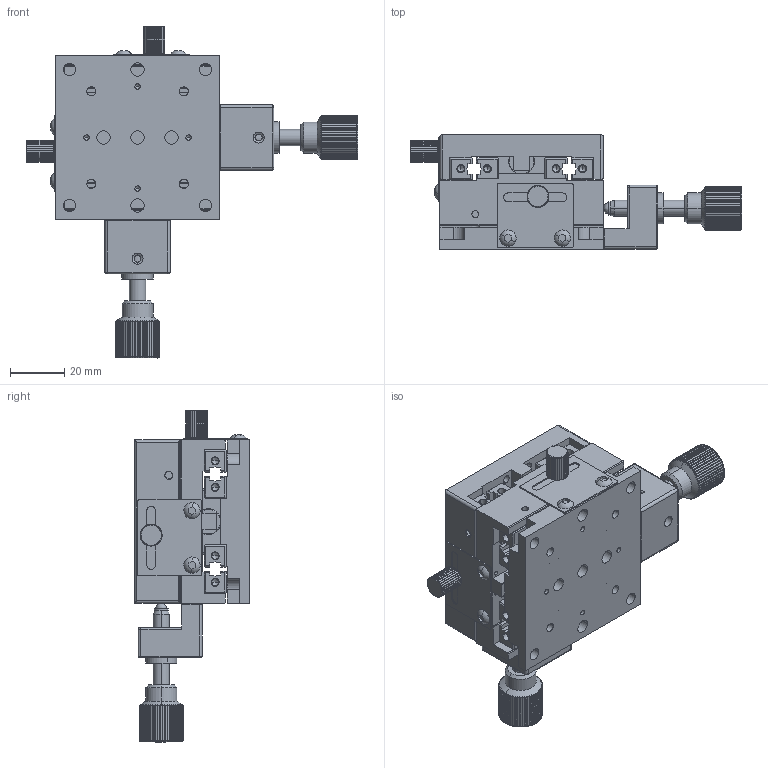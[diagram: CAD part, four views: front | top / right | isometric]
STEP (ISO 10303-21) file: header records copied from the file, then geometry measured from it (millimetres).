
FILE_DESCRIPTION (( 'STEP AP203' ), '1' );
FILE_NAME ('TCS60XY-05A.STEP', '2022-10-18T07:37:27', ( '¦K¬P' ), ( '' ), 'SwSTEP 2.0', 'SolidWorks 2019', '' );
FILE_SCHEMA (( 'CONFIG_CONTROL_DESIGN' ));
Length unit declared in the file: millimetre
Products named in the file (15): 固定片2; TCS60XY-05A; ψ7.5X11.5L; 中推-TC60; socket head cap screw_am_B18.3.1M - 3 x 0.5 x 25 Hex SHCS -- 25NHX; ψ4X3.7L; M10X1P-11L銅座; TC-60-1; M3x0.5P; TC60底板; M6X30L; M3x0.5P無沉頭; TC60面板; M3圓頭; TC60中板
Assembly tree (34 placements, depth 2):
  TCS60XY-05A
    TC60底板
    TC60面板
    固定片2  x2
    中推-TC60  x2
    ψ4X3.7L  x2
    TC-60-1  x8
    M3x0.5P  x2
    M3x0.5P無沉頭
    TC60中板
    ψ7.5X11.5L  x2
    socket head cap screw_am_B18.3.1M - 3 x 0.5 x 25 Hex SHCS -- 25NHX  x4
    M10X1P-11L銅座  x2
    M6X30L  x2
    M3圓頭  x4
Bounding box: 122 x 42 x 122 mm (x, y, z)
Volume: 145599.2 mm3; surface area: 75365 mm2
Topology: 34 solids, 34 shells, 1896 faces, 4900 edges, 3071 vertices
Faces by surface type: plane 980, cylinder 706, cone 170, torus 36, sphere 4
Entity records: 32843 total; most frequent: CARTESIAN_POINT 6554, DIRECTION 5090, ORIENTED_EDGE 5004, EDGE_CURVE 2502, AXIS2_PLACEMENT_3D 1911, VERTEX_POINT 1629, VECTOR 1268, LINE 1268
